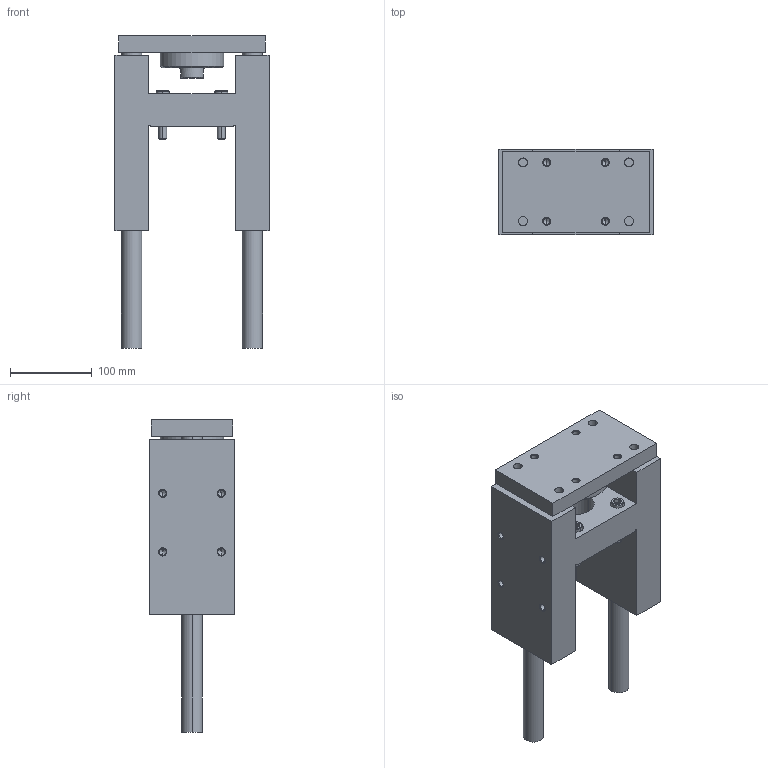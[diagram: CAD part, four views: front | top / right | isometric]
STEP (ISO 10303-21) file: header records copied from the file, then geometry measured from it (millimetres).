
FILE_DESCRIPTION (( 'STEP AP203' ), '1' );
FILE_NAME ('GB80-125.STEP', '2020-04-24T13:29:01', ( '' ), ( '' ), 'SwSTEP 2.0', 'SolidWorks 2019', '' );
FILE_SCHEMA (( 'CONFIG_CONTROL_DESIGN' ));
Length unit declared in the file: millimetre
Products named in the file (1): GB80-125
Bounding box: 189 x 105 x 383 mm (x, y, z)
Volume: 2819154 mm3; surface area: 339306.6 mm2
Topology: 6 solids, 6 shells, 329 faces, 728 edges, 412 vertices
Faces by surface type: cone 134, cylinder 98, plane 97
Entity records: 9631 total; most frequent: CARTESIAN_POINT 2242, DIRECTION 1662, ORIENTED_EDGE 1392, EDGE_CURVE 696, AXIS2_PLACEMENT_3D 664, VERTEX_POINT 412, EDGE_LOOP 392, LINE 334
